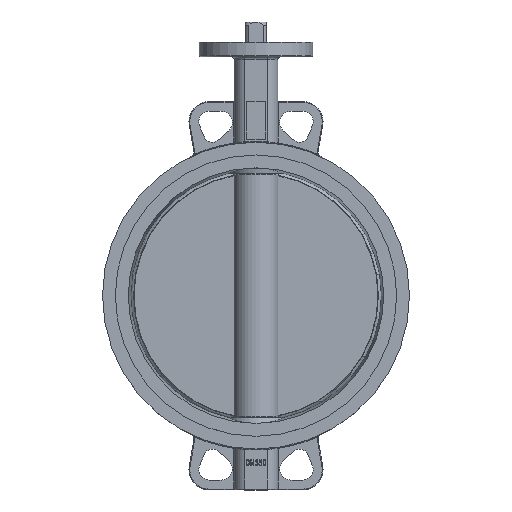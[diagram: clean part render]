
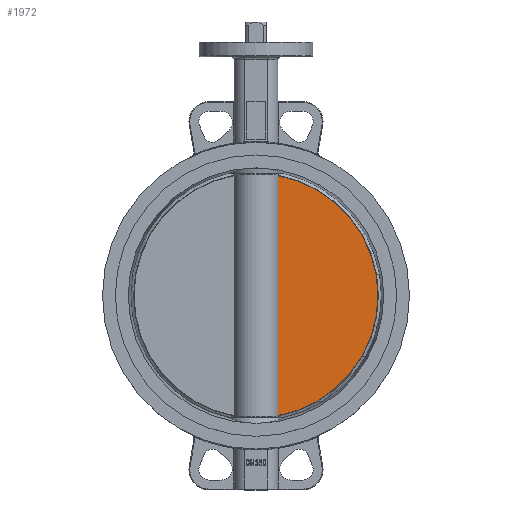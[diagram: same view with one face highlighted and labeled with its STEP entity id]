
A CAD part, top view. The second image highlights one B-rep face of the part: STEP entity #1972.
In plain terms, the highlighted planar face has unit normal (0, 0, 1).
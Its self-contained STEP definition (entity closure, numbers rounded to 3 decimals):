
#1927 = ORIENTED_EDGE ( 'NONE', *, *, #2009, .F. ) ;
#1972 = ADVANCED_FACE ( 'NONE', ( #5797 ), #5835, .T. ) ;
#1975 = EDGE_CURVE ( 'NONE', #2002, #2006, #5818, .T. ) ;
#1977 = ORIENTED_EDGE ( 'NONE', *, *, #1975, .T. ) ;
#2002 = VERTEX_POINT ( 'NONE', #6001 ) ;
#2003 = EDGE_LOOP ( 'NONE', ( #1927, #1977 ) ) ;
#2006 = VERTEX_POINT ( 'NONE', #5974 ) ;
#2009 = EDGE_CURVE ( 'NONE', #2002, #2006, #5958, .T. ) ;
#5797 = FACE_OUTER_BOUND ( 'NONE', #2003, .T. ) ;
#5798 = AXIS2_PLACEMENT_3D ( 'NONE', #5838, #5822, #5821 ) ;
#5815 = DIRECTION ( 'NONE',  ( 0., -1., 0. ) ) ;
#5816 = VECTOR ( 'NONE', #5815, 1000. ) ;
#5817 = CARTESIAN_POINT ( 'NONE',  ( 28.914, 178.05, 8. ) ) ;
#5818 = LINE ( 'NONE', #5817, #5816 ) ;
#5821 = DIRECTION ( 'NONE',  ( 0., 1., 0. ) ) ;
#5822 = DIRECTION ( 'NONE',  ( 0., 0., 1. ) ) ;
#5835 = PLANE ( 'NONE',  #5798 ) ;
#5838 = CARTESIAN_POINT ( 'NONE',  ( 0., 0., 8. ) ) ;
#5958 = CIRCLE ( 'NONE', #6006, 161.365 ) ;
#5974 = CARTESIAN_POINT ( 'NONE',  ( 28.914, -158.754, 8. ) ) ;
#5977 = DIRECTION ( 'NONE',  ( 0., -1., 0. ) ) ;
#5978 = DIRECTION ( 'NONE',  ( 0., 0., -1. ) ) ;
#5979 = CARTESIAN_POINT ( 'NONE',  ( 0., 0., 8. ) ) ;
#6001 = CARTESIAN_POINT ( 'NONE',  ( 28.914, 158.754, 8. ) ) ;
#6006 = AXIS2_PLACEMENT_3D ( 'NONE', #5979, #5978, #5977 ) ;
